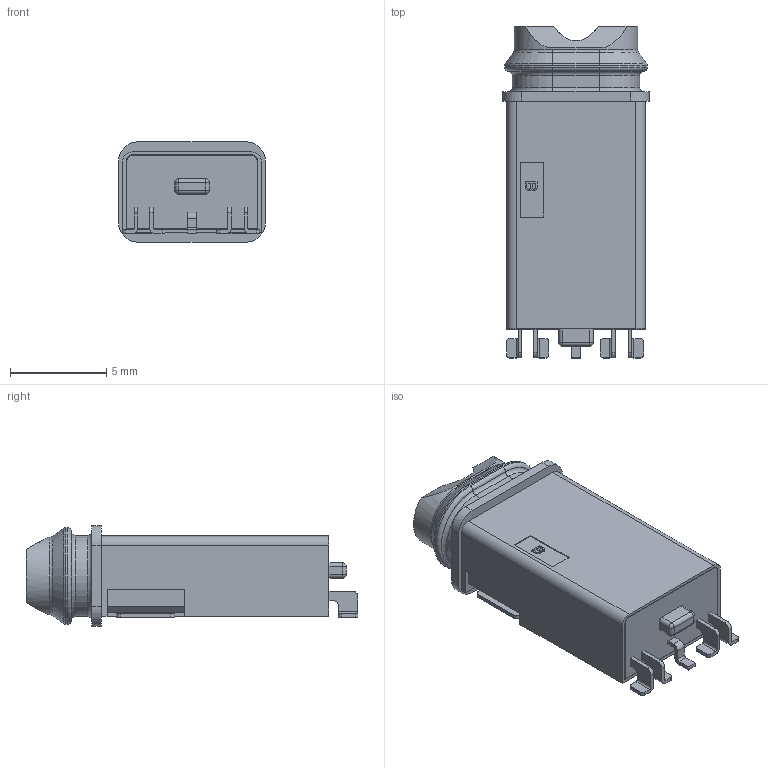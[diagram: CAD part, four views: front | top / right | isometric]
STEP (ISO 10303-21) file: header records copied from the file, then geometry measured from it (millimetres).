
FILE_DESCRIPTION((''),'2;1');
FILE_NAME('07SP','2026-06-28T',('WYH'),(''),'PRO/ENGINEER BY PARAMETRIC TECHNOLOGY CORPORATION, 2013040','PRO/ENGINEER BY PARAMETRIC TECHNOLOGY CORPORATION, 2013040','');
FILE_SCHEMA(('CONFIG_CONTROL_DESIGN'));
Length unit declared in the file: millimetre
Products named in the file (1): 07SP
Bounding box: 7.6 x 17.2 x 5.2 mm (x, y, z)
Volume: 340.4 mm3; surface area: 765.4 mm2
Topology: 1 solids, 1 shells, 287 faces, 769 edges, 498 vertices
Faces by surface type: plane 187, cylinder 84, torus 10, sphere 4, cone 2
Entity records: 8973 total; most frequent: CARTESIAN_POINT 1614, ORIENTED_EDGE 1538, DIRECTION 1509, EDGE_CURVE 769, VECTOR 575, LINE 575, VERTEX_POINT 498, AXIS2_PLACEMENT_3D 467
